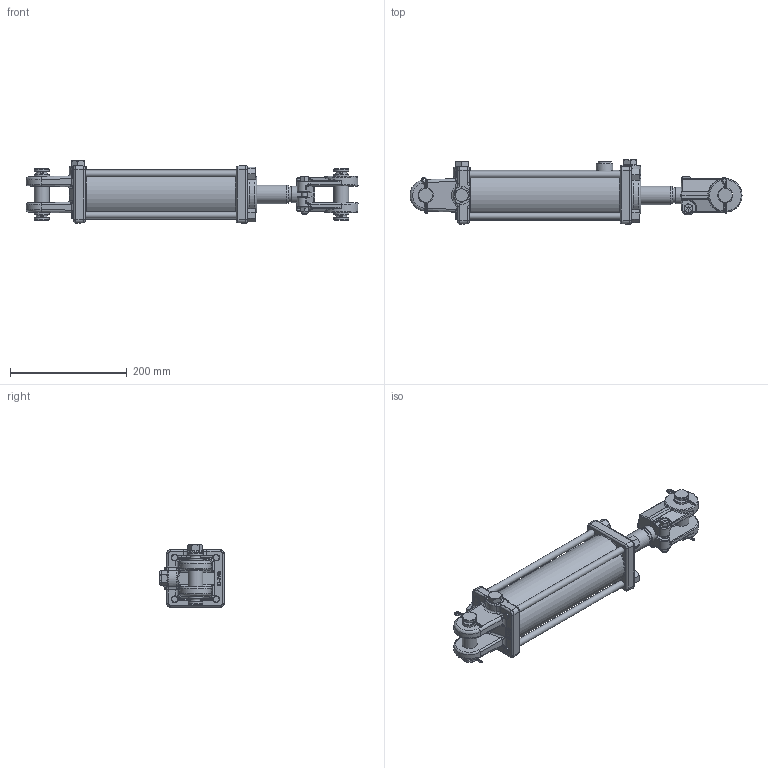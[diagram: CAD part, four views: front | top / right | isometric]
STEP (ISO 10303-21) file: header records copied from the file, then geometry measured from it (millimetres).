
FILE_DESCRIPTION((''),'2;1');
FILE_NAME('C:\Documents and Settings\NewtonB\My Documents\_Vest\090929_PMS-AM-2574\PMS-AM-2574.stp','2009-09-29T10:55:36',('newtonb'),(''),'Autodesk Inventor 2008','Autodesk Inventor 2008','');
FILE_SCHEMA(('AUTOMOTIVE_DESIGN { 1 0 10303 214 1 1 1 1 }'));
Length unit declared in the file: inch
Products named in the file (29): PMS-AM-2574V; 061500488V; 051500529V; 200300181V; 1415005SFV; 010600382V; 100000423V; 100000422V; 170002104V; 220000203V; 071500397V; 220000209V; 190400001V; 220001504V; 240011095V; 240064300V; 240000026V; 240061232V; 240000232V; 081500337V; 081500338V; 210600293V; 250014125V; 240020184V; 170201123V; 800005001V_12.375; 220000105V; 200300040V; 200300104V
Assembly tree (39 placements, depth 3):
  PMS-AM-2574V
    061500488V
      051500529V
      200300181V
    1415005SFV
    010600382V
    100000423V
      100000422V
      170002104V
      220000203V
    071500397V
    220000209V
    190400001V  x2
    220001504V  x4
    240011095V
    240064300V
    240000026V
    240061232V  x2
    240000232V  x2
    081500337V
      081500338V
      210600293V
    250014125V
    240020184V
    170201123V  x4
      800005001V_12.375
      220000105V
    200300040V  x3
    200300104V
Bounding box: 569.83 x 110.29 x 106.98 mm (x, y, z)
Volume: 1710485 mm3; surface area: 451141.9 mm2
Topology: 38 solids, 38 shells, 1137 faces, 2648 edges, 1599 vertices
Faces by surface type: plane 351, bspline 320, cylinder 255, cone 163, torus 31, sphere 17
Full cylindrical faces by diameter (mm): 1.575 x1, 2.769 x1, 5.159 x4, 9.493 x1, 10.319 x2, 11.43 x4, 16.764 x3, 19.05 x4, 22.174 x1, 22.301 x1, 22.352 x1, 25.4 x6, 25.781 x4, 25.806 x1, 28.372 x1, 28.575 x1, 31.725 x2, 31.75 x2, 32.004 x1, 32.702 x1, 33.376 x1, 34.188 x1, 34.798 x1, 35.707 x1, 35.719 x1, 37.948 x1, 38.964 x1, 40.323 x1, 40.488 x1, 41.173 x1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
Entity records: 37111 total; most frequent: CARTESIAN_POINT 17003, ORIENTED_EDGE 3972, DIRECTION 3701, EDGE_CURVE 1986, AXIS2_PLACEMENT_3D 1507, VERTEX_POINT 1289, EDGE_LOOP 1193, FACE_OUTER_BOUND 934
